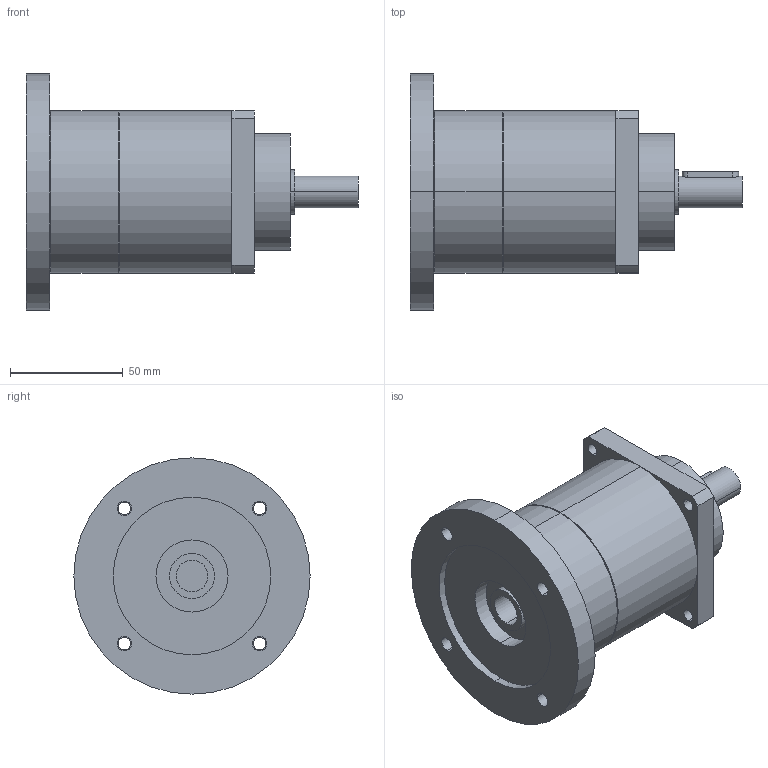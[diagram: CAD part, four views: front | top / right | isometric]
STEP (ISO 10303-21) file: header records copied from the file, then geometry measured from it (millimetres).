
FILE_DESCRIPTION(('CoCreate Modeling STEP Export'),'2;1');
FILE_NAME('GPT75_ig-9-12-16-20-25-28-35-40-50-70-100_14_B5T_14_P05.stp','2014-08-27T13:37:43',(''),(''),'CoCreate Modeling STEP processor for AP214 (Solid Model)','CoCreate Modeling 16.00C 25-Feb-2009 (C) Parametric Technology GmbH','');
FILE_SCHEMA(('AUTOMOTIVE_DESIGN { 1 0 10303 214 1 1 1 1 }'));
Length unit declared in the file: millimetre
Products named in the file (2): GPT75_ig-9-12-16-20-25-28-35-40-50-70-100_14_B5T_14_P05
Assembly tree (1 placements, depth 2):
  GPT75_ig-9-12-16-20-25-28-35-40-50-70-100_14_B5T_14_P05
    GPT75_ig-9-12-16-20-25-28-35-40-50-70-100_14_B5T_14_P05
Bounding box: 147.5 x 105 x 105 mm (x, y, z)
Volume: 485927.9 mm3; surface area: 52879.6 mm2
Topology: 1 solids, 1 shells, 71 faces, 178 edges, 119 vertices
Faces by surface type: cylinder 44, plane 23, cone 4
Entity records: 2277 total; most frequent: CARTESIAN_POINT 682, ORIENTED_EDGE 356, DIRECTION 280, EDGE_CURVE 178, VERTEX_POINT 119, AXIS2_PLACEMENT_3D 105, EDGE_LOOP 97, FACE_OUTER_BOUND 71
